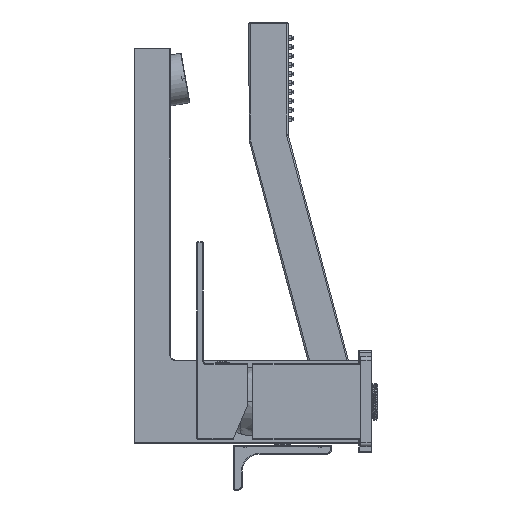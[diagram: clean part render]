
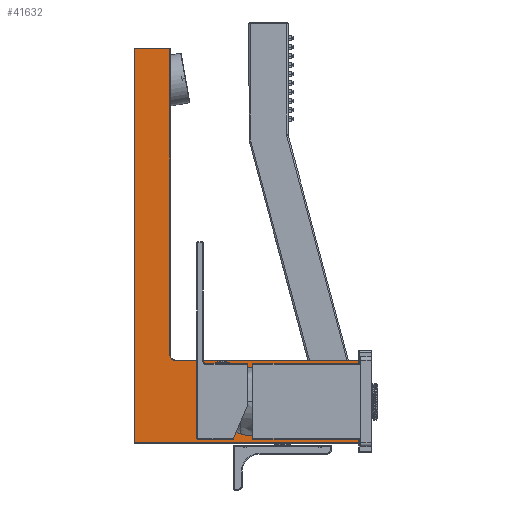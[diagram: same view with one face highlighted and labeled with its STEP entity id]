
A CAD part, left-side view. The second image highlights one B-rep face of the part: STEP entity #41632.
In plain terms, the highlighted free-form (B-spline) face has degree [1, 1] with [2, 2] control points.
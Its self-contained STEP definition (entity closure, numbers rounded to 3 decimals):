
#6 = VERTEX_POINT ( 'NONE', #21663 ) ;
#193 = VECTOR ( 'NONE', #9457, 1000. ) ;
#344 = CARTESIAN_POINT ( 'NONE',  ( -23.2, 131.8, -23. ) ) ;
#416 = DIRECTION ( 'NONE',  ( 0., 0., 1. ) ) ;
#2494 = EDGE_CURVE ( 'NONE', #39003, #23077, #8665, .T. ) ;
#3058 = VERTEX_POINT ( 'NONE', #4630 ) ;
#3564 = AXIS2_PLACEMENT_3D ( 'NONE', #19823, #12218, #36681 ) ;
#3715 = ORIENTED_EDGE ( 'NONE', *, *, #44586, .T. ) ;
#4630 = CARTESIAN_POINT ( 'NONE',  ( -23.2, 7., -23. ) ) ;
#4991 = VECTOR ( 'NONE', #26420, 1000. ) ;
#6211 = DIRECTION ( 'NONE',  ( 0., 1., 0. ) ) ;
#6403 = VERTEX_POINT ( 'NONE', #344 ) ;
#8354 = CARTESIAN_POINT ( 'NONE',  ( -23.2, 4.504, 200.992 ) ) ;
#8665 = LINE ( 'NONE', #22052, #4991 ) ;
#8853 = CARTESIAN_POINT ( 'NONE',  ( -23.2, 7., 23. ) ) ;
#9457 = DIRECTION ( 'NONE',  ( 0., 0., 1. ) ) ;
#11262 = DIRECTION ( 'NONE',  ( 0., 0., -1. ) ) ;
#11280 = EDGE_LOOP ( 'NONE', ( #12469, #31127, #32062, #13153, #3715, #25084, #35933 ) ) ;
#12218 = DIRECTION ( 'NONE',  ( 1., 0., 0. ) ) ;
#12263 = CARTESIAN_POINT ( 'NONE',  ( -23.2, 134.296, 200.992 ) ) ;
#12469 = ORIENTED_EDGE ( 'NONE', *, *, #35477, .T. ) ;
#12970 = VECTOR ( 'NONE', #6211, 1000. ) ;
#13153 = ORIENTED_EDGE ( 'NONE', *, *, #2494, .T. ) ;
#14496 = CARTESIAN_POINT ( 'NONE',  ( -23.2, 112.2, 26.2 ) ) ;
#14723 = LINE ( 'NONE', #28806, #36330 ) ;
#17263 = LINE ( 'NONE', #24194, #12970 ) ;
#18313 = CIRCLE ( 'NONE', #3564, 3.2 ) ;
#18961 = LINE ( 'NONE', #22424, #19544 ) ;
#19544 = VECTOR ( 'NONE', #22653, 1000. ) ;
#19823 = CARTESIAN_POINT ( 'NONE',  ( -23.2, 109., 26.2 ) ) ;
#21216 = B_SPLINE_SURFACE_WITH_KNOTS ( 'NONE', 1, 1, ( 
 ( #39960, #43435 ),
 ( #8354, #12263 ) ),
 .UNSPECIFIED., .F., .F., .F.,
 ( 2, 2 ),
 ( 2, 2 ),
 ( -27.392, 200.992 ),
 ( 4.504, 134.296 ),
 .UNSPECIFIED. ) ;
#21663 = CARTESIAN_POINT ( 'NONE',  ( -23.2, 131.8, 196.6 ) ) ;
#22052 = CARTESIAN_POINT ( 'NONE',  ( -23.2, 7., 23. ) ) ;
#22424 = CARTESIAN_POINT ( 'NONE',  ( -23.2, 131.8, -23. ) ) ;
#22653 = DIRECTION ( 'NONE',  ( 0., -1., 0. ) ) ;
#23077 = VERTEX_POINT ( 'NONE', #44443 ) ;
#24194 = CARTESIAN_POINT ( 'NONE',  ( -23.2, 112.2, 196.6 ) ) ;
#24428 = LINE ( 'NONE', #14496, #43956 ) ;
#24543 = VERTEX_POINT ( 'NONE', #34287 ) ;
#25084 = ORIENTED_EDGE ( 'NONE', *, *, #26880, .T. ) ;
#26420 = DIRECTION ( 'NONE',  ( 0., 1., 0. ) ) ;
#26880 = EDGE_CURVE ( 'NONE', #24543, #29733, #24428, .T. ) ;
#28806 = CARTESIAN_POINT ( 'NONE',  ( -23.2, 131.8, 196.6 ) ) ;
#29733 = VERTEX_POINT ( 'NONE', #35843 ) ;
#31127 = ORIENTED_EDGE ( 'NONE', *, *, #40463, .T. ) ;
#31746 = EDGE_CURVE ( 'NONE', #29733, #6, #17263, .T. ) ;
#32062 = ORIENTED_EDGE ( 'NONE', *, *, #35202, .T. ) ;
#34287 = CARTESIAN_POINT ( 'NONE',  ( -23.2, 112.2, 26.2 ) ) ;
#35202 = EDGE_CURVE ( 'NONE', #3058, #39003, #41061, .T. ) ;
#35477 = EDGE_CURVE ( 'NONE', #6, #6403, #14723, .T. ) ;
#35843 = CARTESIAN_POINT ( 'NONE',  ( -23.2, 112.2, 196.6 ) ) ;
#35933 = ORIENTED_EDGE ( 'NONE', *, *, #31746, .T. ) ;
#36330 = VECTOR ( 'NONE', #11262, 1000. ) ;
#36681 = DIRECTION ( 'NONE',  ( 0., 0., -1. ) ) ;
#36692 = CARTESIAN_POINT ( 'NONE',  ( -23.2, 7., -23. ) ) ;
#36723 = FACE_OUTER_BOUND ( 'NONE', #11280, .T. ) ;
#39003 = VERTEX_POINT ( 'NONE', #8853 ) ;
#39960 = CARTESIAN_POINT ( 'NONE',  ( -23.2, 4.504, -27.392 ) ) ;
#40463 = EDGE_CURVE ( 'NONE', #6403, #3058, #18961, .T. ) ;
#41061 = LINE ( 'NONE', #36692, #193 ) ;
#41632 = ADVANCED_FACE ( 'NONE', ( #36723 ), #21216, .T. ) ;
#43435 = CARTESIAN_POINT ( 'NONE',  ( -23.2, 134.296, -27.392 ) ) ;
#43956 = VECTOR ( 'NONE', #416, 1000. ) ;
#44443 = CARTESIAN_POINT ( 'NONE',  ( -23.2, 109., 23. ) ) ;
#44586 = EDGE_CURVE ( 'NONE', #23077, #24543, #18313, .T. ) ;
